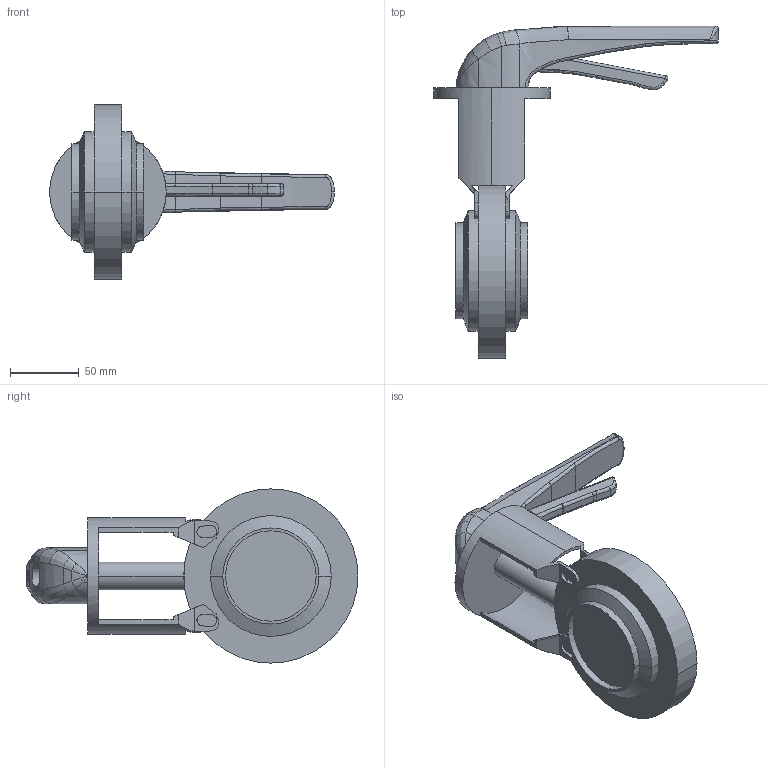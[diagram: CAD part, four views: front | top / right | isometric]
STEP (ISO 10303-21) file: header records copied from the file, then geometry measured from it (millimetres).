
FILE_DESCRIPTION(('Creo Elements/Direct Modeling STEP Export'),'2;1');
FILE_NAME('SV1-65-HL-1S-2S.stp','2019-02-20T10:13:52',(''),(''),'PTC Creo Elements/Direct Modeling STEP processor for AP214 (Solid Model)','PTC Creo Elements/Direct Modeling 19.0B 21-Mar-2015 (C) Parametric Technology GmbH','');
FILE_SCHEMA(('AUTOMOTIVE_DESIGN { 1 0 10303 214 1 1 1 1 }'));
Length unit declared in the file: millimetre
Products named in the file (4): SV1-65-1S-2S; SV_Laterne_HL_65_100; Handhebel_SV; SV1-65-1S-2S-HL
Assembly tree (3 placements, depth 2):
  SV1-65-1S-2S-HL
    Handhebel_SV
    SV_Laterne_HL_65_100
    SV1-65-1S-2S
Bounding box: 207.53 x 241.9 x 127 mm (x, y, z)
Volume: 607341.3 mm3; surface area: 99790.2 mm2
Topology: 3 solids, 3 shells, 291 faces, 758 edges, 484 vertices
Faces by surface type: plane 158, cylinder 51, bspline 34, extrusion 32, torus 10, cone 4, sphere 2
Entity records: 24866 total; most frequent: CARTESIAN_POINT 17480, ORIENTED_EDGE 1508, DIRECTION 1145, EDGE_CURVE 754, VERTEX_POINT 484, VECTOR 421, LINE 389, AXIS2_PLACEMENT_3D 362
